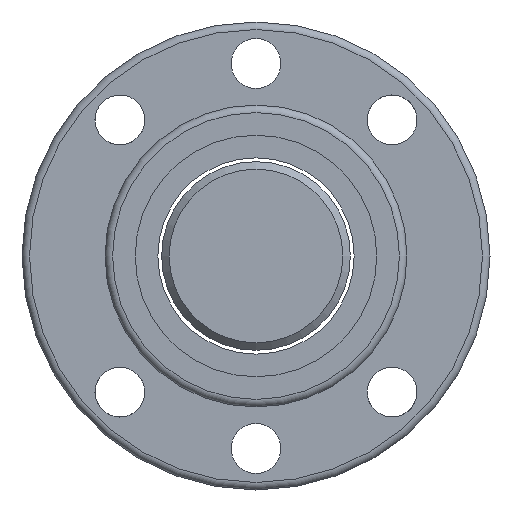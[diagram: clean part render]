
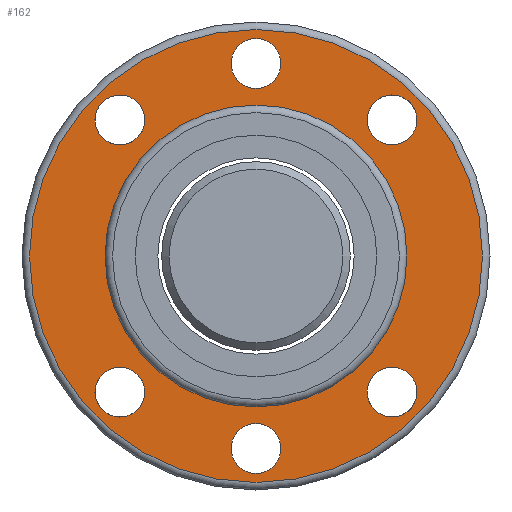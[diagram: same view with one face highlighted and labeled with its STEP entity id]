
A CAD part, left-side view. The second image highlights one B-rep face of the part: STEP entity #162.
In plain terms, the highlighted planar face has unit normal (-1, 0, 0).
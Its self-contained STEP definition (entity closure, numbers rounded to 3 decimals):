
#129=PLANE('',#647);
#144=FACE_OUTER_BOUND('',#302,.T.);
#162=ADVANCED_FACE('',(#214,#215,#216,#217,#218,#219,#220,#144),#129,.F.);
#214=FACE_BOUND('',#295,.T.);
#215=FACE_BOUND('',#296,.T.);
#216=FACE_BOUND('',#297,.T.);
#217=FACE_BOUND('',#298,.T.);
#218=FACE_BOUND('',#299,.T.);
#219=FACE_BOUND('',#300,.T.);
#220=FACE_BOUND('',#301,.T.);
#295=EDGE_LOOP('',(#393));
#296=EDGE_LOOP('',(#394));
#297=EDGE_LOOP('',(#395));
#298=EDGE_LOOP('',(#396));
#299=EDGE_LOOP('',(#397));
#300=EDGE_LOOP('',(#398));
#301=EDGE_LOOP('',(#399));
#302=EDGE_LOOP('',(#400));
#393=ORIENTED_EDGE('',*,*,#540,.T.);
#394=ORIENTED_EDGE('',*,*,#541,.T.);
#395=ORIENTED_EDGE('',*,*,#542,.T.);
#396=ORIENTED_EDGE('',*,*,#543,.T.);
#397=ORIENTED_EDGE('',*,*,#544,.T.);
#398=ORIENTED_EDGE('',*,*,#545,.T.);
#399=ORIENTED_EDGE('',*,*,#546,.F.);
#400=ORIENTED_EDGE('',*,*,#538,.T.);
#489=VERTEX_POINT('',#920);
#491=VERTEX_POINT('',#925);
#492=VERTEX_POINT('',#927);
#493=VERTEX_POINT('',#929);
#494=VERTEX_POINT('',#931);
#495=VERTEX_POINT('',#933);
#496=VERTEX_POINT('',#935);
#497=VERTEX_POINT('',#937);
#538=EDGE_CURVE('',#489,#489,#587,.T.);
#540=EDGE_CURVE('',#491,#491,#589,.T.);
#541=EDGE_CURVE('',#492,#492,#590,.T.);
#542=EDGE_CURVE('',#493,#493,#591,.T.);
#543=EDGE_CURVE('',#494,#494,#592,.T.);
#544=EDGE_CURVE('',#495,#495,#593,.T.);
#545=EDGE_CURVE('',#496,#496,#594,.T.);
#546=EDGE_CURVE('',#497,#497,#595,.T.);
#587=CIRCLE('',#637,30.);
#589=CIRCLE('',#640,3.3);
#590=CIRCLE('',#641,3.3);
#591=CIRCLE('',#642,3.3);
#592=CIRCLE('',#643,3.3);
#593=CIRCLE('',#644,3.3);
#594=CIRCLE('',#645,3.3);
#595=CIRCLE('',#646,20.);
#637=AXIS2_PLACEMENT_3D('',#919,#732,#733);
#640=AXIS2_PLACEMENT_3D('',#924,#738,#739);
#641=AXIS2_PLACEMENT_3D('',#926,#740,#741);
#642=AXIS2_PLACEMENT_3D('',#928,#742,#743);
#643=AXIS2_PLACEMENT_3D('',#930,#744,#745);
#644=AXIS2_PLACEMENT_3D('',#932,#746,#747);
#645=AXIS2_PLACEMENT_3D('',#934,#748,#749);
#646=AXIS2_PLACEMENT_3D('',#936,#750,#751);
#647=AXIS2_PLACEMENT_3D('',#938,#752,#753);
#732=DIRECTION('',(-1.,0.,0.));
#733=DIRECTION('',(0.,-1.,0.));
#738=DIRECTION('',(1.,0.,0.));
#739=DIRECTION('',(0.,1.,0.));
#740=DIRECTION('',(1.,0.,0.));
#741=DIRECTION('',(0.,1.,0.));
#742=DIRECTION('',(1.,0.,0.));
#743=DIRECTION('',(0.,1.,0.));
#744=DIRECTION('',(1.,0.,0.));
#745=DIRECTION('',(0.,1.,0.));
#746=DIRECTION('',(1.,0.,0.));
#747=DIRECTION('',(0.,1.,0.));
#748=DIRECTION('',(1.,0.,0.));
#749=DIRECTION('',(0.,1.,0.));
#750=DIRECTION('',(-1.,0.,0.));
#751=DIRECTION('',(0.,-1.,0.));
#752=DIRECTION('',(1.,0.,0.));
#753=DIRECTION('',(0.,1.,0.));
#919=CARTESIAN_POINT('',(-25.,0.,0.));
#920=CARTESIAN_POINT('',(-25.,-30.,0.));
#924=CARTESIAN_POINT('',(-25.,18.031,18.031));
#925=CARTESIAN_POINT('',(-25.,21.331,18.031));
#926=CARTESIAN_POINT('',(-25.,18.031,-18.031));
#927=CARTESIAN_POINT('',(-25.,21.331,-18.031));
#928=CARTESIAN_POINT('',(-25.,0.,-25.5));
#929=CARTESIAN_POINT('',(-25.,3.3,-25.5));
#930=CARTESIAN_POINT('',(-25.,-18.031,-18.031));
#931=CARTESIAN_POINT('',(-25.,-14.731,-18.031));
#932=CARTESIAN_POINT('',(-25.,-18.031,18.031));
#933=CARTESIAN_POINT('',(-25.,-14.731,18.031));
#934=CARTESIAN_POINT('',(-25.,0.,25.5));
#935=CARTESIAN_POINT('',(-25.,3.3,25.5));
#936=CARTESIAN_POINT('',(-25.,0.,0.));
#937=CARTESIAN_POINT('',(-25.,-20.,0.));
#938=CARTESIAN_POINT('',(-25.,25.,0.));
